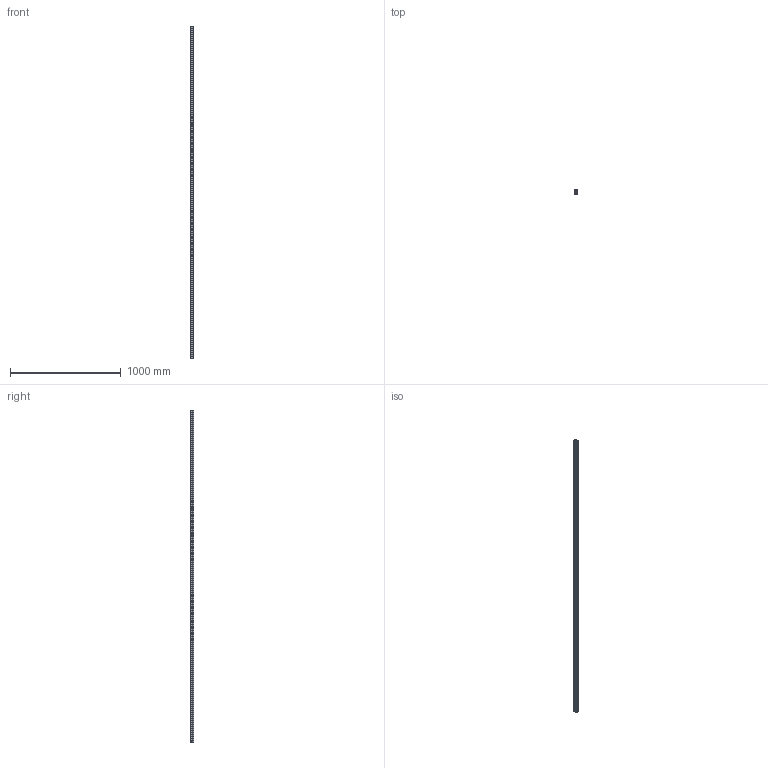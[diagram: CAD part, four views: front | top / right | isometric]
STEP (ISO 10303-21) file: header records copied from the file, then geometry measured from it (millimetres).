
FILE_DESCRIPTION (( 'STEP AP203' ), '1' );
FILE_NAME ('MLF 2_-_MLF 2 2998 mm lang.step', '2005-06-03T08:35:08', ( ' ' ), ( ' ' ), 'SwSTEP 2.0', 'SolidWorks 2004231', '' );
FILE_SCHEMA (( 'CONFIG_CONTROL_DESIGN' ));
Length unit declared in the file: millimetre
Products named in the file (1): MLF 2_-_MLF 2  2998 mm lang
Bounding box: 29.96 x 32.5 x 2998 mm (x, y, z)
Volume: 1685283.6 mm3; surface area: 747495.9 mm2
Topology: 1 solids, 1 shells, 112 faces, 342 edges, 224 vertices
Faces by surface type: plane 90, cylinder 22
Entity records: 3875 total; most frequent: ORIENTED_EDGE 684, CARTESIAN_POINT 679, DIRECTION 612, EDGE_CURVE 342, VECTOR 298, LINE 298, VERTEX_POINT 224, AXIS2_PLACEMENT_3D 157
